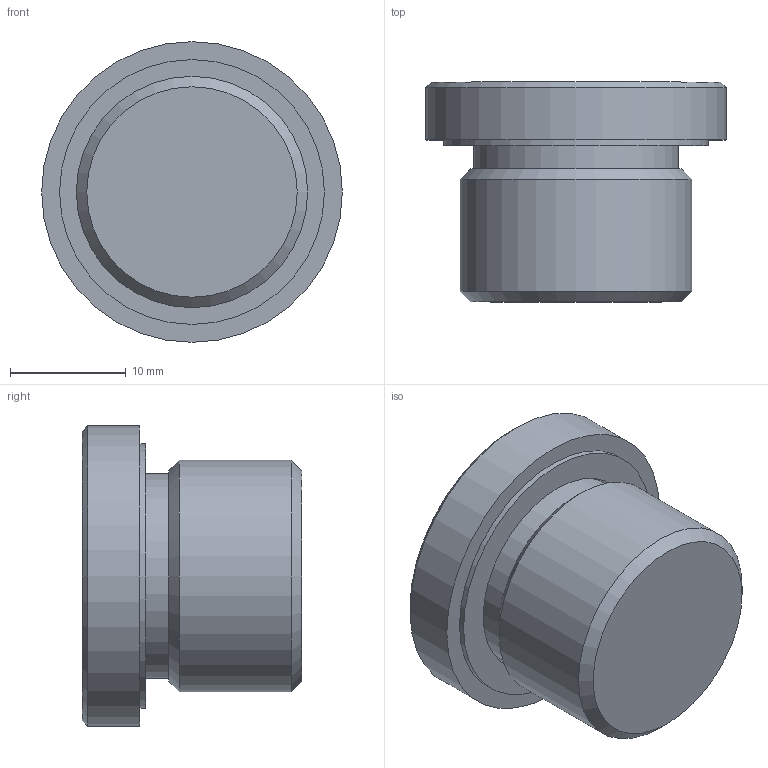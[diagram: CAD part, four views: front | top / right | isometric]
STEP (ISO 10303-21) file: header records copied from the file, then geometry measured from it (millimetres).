
FILE_DESCRIPTION( ( 'STEP AP203' ), '1' );
FILE_NAME( 'C:/Temp/Ganter_Step_05_03_2020/data/3_5/gn749/gn749_a/Threaded plug GN 749-M20x1,5-A.stp', '2020-03-12T13:41:34', ( 'License CC BY-ND 4.0' ), ( 'CADENAS' ), ' ', 'PARTsolutions', ' ' );
FILE_SCHEMA( ( 'CONFIG_CONTROL_DESIGN' ) );
Length unit declared in the file: millimetre
Products named in the file (1): _Threaded plug GN 749-M20x1,5-A
Bounding box: 26 x 19 x 26 mm (x, y, z)
Volume: 6207.6 mm3; surface area: 2717 mm2
Topology: 1 solids, 1 shells, 21 faces, 41 edges, 27 vertices
Faces by surface type: plane 13, cylinder 5, cone 3
Full cylindrical faces by diameter (mm): 17.7 x1, 18.1 x1, 20 x1, 22.9 x1, 26 x1
Entity records: 526 total; most frequent: DIRECTION 88, CARTESIAN_POINT 78, ORIENTED_EDGE 62, AXIS2_PLACEMENT_3D 35, EDGE_LOOP 34, EDGE_CURVE 31, FACE_OUTER_BOUND 26, VERTEX_POINT 25
